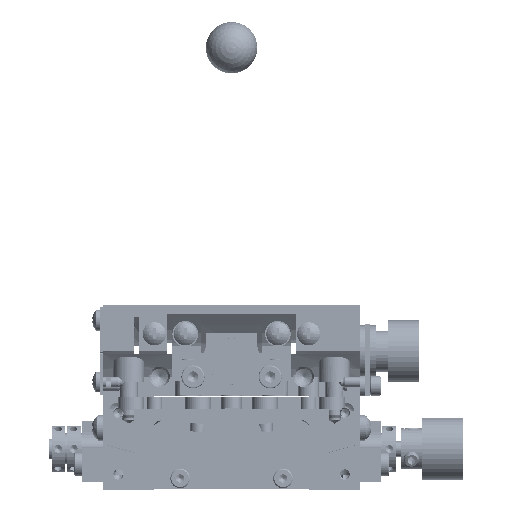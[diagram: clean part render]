
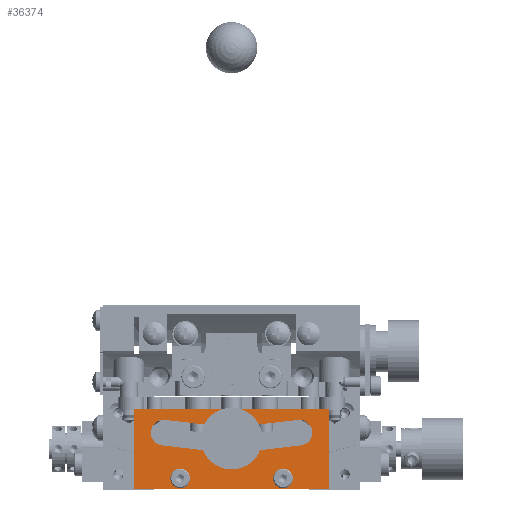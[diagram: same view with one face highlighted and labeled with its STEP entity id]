
A CAD part, front view. The second image highlights one B-rep face of the part: STEP entity #36374.
In plain terms, the highlighted planar face has unit normal (0, -1, 0) as drawn and (-1, 0, 0) by its records, which use the part's own axes.
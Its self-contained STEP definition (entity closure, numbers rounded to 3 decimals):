
#2894 = CIRCLE ( 'NONE', #2906, 2.5 ) ;
#2906 = AXIS2_PLACEMENT_3D ( 'NONE', #4996, #4999, #5001 ) ;
#2985 = CIRCLE ( 'NONE', #2991, 1.7 ) ;
#2991 = AXIS2_PLACEMENT_3D ( 'NONE', #5527, #5529, #5531 ) ;
#3133 = CIRCLE ( 'NONE', #3137, 1.7 ) ;
#3137 = AXIS2_PLACEMENT_3D ( 'NONE', #6257, #6259, #6261 ) ;
#4996 = CARTESIAN_POINT ( 'NONE',  ( -27., 13.197, 11.155 ) ) ;
#4999 = DIRECTION ( 'NONE',  ( 1., 0., 0. ) ) ;
#5001 = DIRECTION ( 'NONE',  ( 0., 1., 0. ) ) ;
#5527 = CARTESIAN_POINT ( 'NONE',  ( -27., 10., 2.25 ) ) ;
#5529 = DIRECTION ( 'NONE',  ( 1., 0., 0. ) ) ;
#5531 = DIRECTION ( 'NONE',  ( 0., -1., 0. ) ) ;
#6257 = CARTESIAN_POINT ( 'NONE',  ( -27., -10., 2.25 ) ) ;
#6259 = DIRECTION ( 'NONE',  ( 1., 0., 0. ) ) ;
#6261 = DIRECTION ( 'NONE',  ( 0., -1., 0. ) ) ;
#11357 = EDGE_LOOP ( 'NONE', ( #71550, #71548 ) ) ;
#11359 = EDGE_LOOP ( 'NONE', ( #71562, #71561, #71559, #71557, #71555 ) ) ;
#11371 = EDGE_LOOP ( 'NONE', ( #71570, #71568, #71566, #71564 ) ) ;
#11373 = EDGE_LOOP ( 'NONE', ( #71553, #71551 ) ) ;
#13781 = CIRCLE ( 'NONE', #13787, 1.7 ) ;
#13785 = CIRCLE ( 'NONE', #13791, 2.5 ) ;
#13787 = AXIS2_PLACEMENT_3D ( 'NONE', #19898, #19899, #19900 ) ;
#13789 = CIRCLE ( 'NONE', #13796, 78.5 ) ;
#13791 = AXIS2_PLACEMENT_3D ( 'NONE', #19901, #19902, #19903 ) ;
#13794 = CIRCLE ( 'NONE', #13800, 2.5 ) ;
#13796 = AXIS2_PLACEMENT_3D ( 'NONE', #19904, #19905, #19906 ) ;
#13798 = CIRCLE ( 'NONE', #13804, 73.5 ) ;
#13800 = AXIS2_PLACEMENT_3D ( 'NONE', #19909, #19910, #19911 ) ;
#13802 = VECTOR ( 'NONE', #19917, 1000. ) ;
#13804 = AXIS2_PLACEMENT_3D ( 'NONE', #19914, #19915, #19916 ) ;
#13807 = VECTOR ( 'NONE', #19920, 1000. ) ;
#13809 = VECTOR ( 'NONE', #19923, 1000. ) ;
#13811 = VECTOR ( 'NONE', #19926, 1000. ) ;
#13859 = CIRCLE ( 'NONE', #13865, 1.7 ) ;
#13865 = AXIS2_PLACEMENT_3D ( 'NONE', #19980, #19981, #19982 ) ;
#18399 = VERTEX_POINT ( 'NONE', #49182 ) ;
#18401 = VERTEX_POINT ( 'NONE', #49183 ) ;
#18409 = VERTEX_POINT ( 'NONE', #49191 ) ;
#18410 = VERTEX_POINT ( 'NONE', #49193 ) ;
#18414 = VERTEX_POINT ( 'NONE', #49196 ) ;
#18416 = VERTEX_POINT ( 'NONE', #49198 ) ;
#18420 = VERTEX_POINT ( 'NONE', #49202 ) ;
#19076 = CARTESIAN_POINT ( 'NONE',  ( -27., 11.7, 2.25 ) ) ;
#19083 = CARTESIAN_POINT ( 'NONE',  ( -27., 8.3, 2.25 ) ) ;
#19098 = CARTESIAN_POINT ( 'NONE',  ( -27., 12.763, 13.617 ) ) ;
#19103 = CARTESIAN_POINT ( 'NONE',  ( -27., 15.697, 11.155 ) ) ;
#19111 = CARTESIAN_POINT ( 'NONE',  ( -27., -8.3, 2.25 ) ) ;
#19113 = CARTESIAN_POINT ( 'NONE',  ( -27., -11.7, 2.25 ) ) ;
#19898 = CARTESIAN_POINT ( 'NONE',  ( -27., -10., 2.25 ) ) ;
#19899 = DIRECTION ( 'NONE',  ( 1., 0., 0. ) ) ;
#19900 = DIRECTION ( 'NONE',  ( 0., -1., 0. ) ) ;
#19901 = CARTESIAN_POINT ( 'NONE',  ( -27., 13.197, 11.155 ) ) ;
#19902 = DIRECTION ( 'NONE',  ( 1., 0., 0. ) ) ;
#19903 = DIRECTION ( 'NONE',  ( 0., 1., 0. ) ) ;
#19904 = CARTESIAN_POINT ( 'NONE',  ( -27., 0., 86. ) ) ;
#19905 = DIRECTION ( 'NONE',  ( 1., 0., 0. ) ) ;
#19906 = DIRECTION ( 'NONE',  ( 0., 1., 0. ) ) ;
#19907 = LINE ( 'NONE', #19908, #13802 ) ;
#19908 = CARTESIAN_POINT ( 'NONE',  ( -27., -19., 0.25 ) ) ;
#19909 = CARTESIAN_POINT ( 'NONE',  ( -27., -13.197, 11.155 ) ) ;
#19910 = DIRECTION ( 'NONE',  ( 1., 0., 0. ) ) ;
#19911 = DIRECTION ( 'NONE',  ( 0., 1., 0. ) ) ;
#19914 = CARTESIAN_POINT ( 'NONE',  ( -27., 0., 86. ) ) ;
#19915 = DIRECTION ( 'NONE',  ( -1., 0., 0. ) ) ;
#19916 = DIRECTION ( 'NONE',  ( 0., -1., 0. ) ) ;
#19917 = DIRECTION ( 'NONE',  ( 0., 1., 0. ) ) ;
#19918 = LINE ( 'NONE', #19919, #13807 ) ;
#19919 = CARTESIAN_POINT ( 'NONE',  ( -27., 19., 0.25 ) ) ;
#19920 = DIRECTION ( 'NONE',  ( 0., 0., 1. ) ) ;
#19921 = LINE ( 'NONE', #19922, #13809 ) ;
#19922 = CARTESIAN_POINT ( 'NONE',  ( -27., 19., 15.75 ) ) ;
#19923 = DIRECTION ( 'NONE',  ( 0., -1., 0. ) ) ;
#19924 = LINE ( 'NONE', #19925, #13811 ) ;
#19925 = CARTESIAN_POINT ( 'NONE',  ( -27., -19., 15.75 ) ) ;
#19926 = DIRECTION ( 'NONE',  ( 0., 0., -1. ) ) ;
#19980 = CARTESIAN_POINT ( 'NONE',  ( -27., 10., 2.25 ) ) ;
#19981 = DIRECTION ( 'NONE',  ( 1., 0., 0. ) ) ;
#19982 = DIRECTION ( 'NONE',  ( 0., -1., 0. ) ) ;
#36374 = ADVANCED_FACE ( 'NONE', ( #89017, #89019, #89021, #89013 ), #89022, .F. ) ;
#49182 = CARTESIAN_POINT ( 'NONE',  ( -27., 13.631, 8.693 ) ) ;
#49183 = CARTESIAN_POINT ( 'NONE',  ( -27., -13.631, 8.693 ) ) ;
#49191 = CARTESIAN_POINT ( 'NONE',  ( -27., 19., 0.25 ) ) ;
#49193 = CARTESIAN_POINT ( 'NONE',  ( -27., 19., 15.75 ) ) ;
#49196 = CARTESIAN_POINT ( 'NONE',  ( -27., -19., 15.75 ) ) ;
#49198 = CARTESIAN_POINT ( 'NONE',  ( -27., -12.763, 13.617 ) ) ;
#49202 = CARTESIAN_POINT ( 'NONE',  ( -27., -19., 0.25 ) ) ;
#51308 = AXIS2_PLACEMENT_3D ( 'NONE', #89018, #89023, #89024 ) ;
#71548 = ORIENTED_EDGE ( 'NONE', *, *, #100531, .T. ) ;
#71550 = ORIENTED_EDGE ( 'NONE', *, *, #113433, .T. ) ;
#71551 = ORIENTED_EDGE ( 'NONE', *, *, #100697, .T. ) ;
#71553 = ORIENTED_EDGE ( 'NONE', *, *, #113377, .T. ) ;
#71555 = ORIENTED_EDGE ( 'NONE', *, *, #100496, .T. ) ;
#71557 = ORIENTED_EDGE ( 'NONE', *, *, #113379, .T. ) ;
#71559 = ORIENTED_EDGE ( 'NONE', *, *, #113381, .T. ) ;
#71561 = ORIENTED_EDGE ( 'NONE', *, *, #113383, .T. ) ;
#71562 = ORIENTED_EDGE ( 'NONE', *, *, #113386, .T. ) ;
#71564 = ORIENTED_EDGE ( 'NONE', *, *, #113388, .F. ) ;
#71566 = ORIENTED_EDGE ( 'NONE', *, *, #113390, .F. ) ;
#71568 = ORIENTED_EDGE ( 'NONE', *, *, #113392, .F. ) ;
#71570 = ORIENTED_EDGE ( 'NONE', *, *, #113394, .F. ) ;
#89013 = FACE_BOUND ( 'NONE', #11357, .T. ) ;
#89017 = FACE_OUTER_BOUND ( 'NONE', #11371, .T. ) ;
#89018 = CARTESIAN_POINT ( 'NONE',  ( -27., 0., 0.25 ) ) ;
#89019 = FACE_BOUND ( 'NONE', #11359, .T. ) ;
#89021 = FACE_BOUND ( 'NONE', #11373, .T. ) ;
#89022 = PLANE ( 'NONE',  #51308 ) ;
#89023 = DIRECTION ( 'NONE',  ( 1., 0., 0. ) ) ;
#89024 = DIRECTION ( 'NONE',  ( 0., 1., 0. ) ) ;
#100496 = EDGE_CURVE ( 'NONE', #110468, #110463, #2894, .T. ) ;
#100531 = EDGE_CURVE ( 'NONE', #110448, #110441, #2985, .T. ) ;
#100697 = EDGE_CURVE ( 'NONE', #110478, #110476, #3133, .T. ) ;
#110441 = VERTEX_POINT ( 'NONE', #19076 ) ;
#110448 = VERTEX_POINT ( 'NONE', #19083 ) ;
#110463 = VERTEX_POINT ( 'NONE', #19098 ) ;
#110468 = VERTEX_POINT ( 'NONE', #19103 ) ;
#110476 = VERTEX_POINT ( 'NONE', #19111 ) ;
#110478 = VERTEX_POINT ( 'NONE', #19113 ) ;
#113377 = EDGE_CURVE ( 'NONE', #110476, #110478, #13781, .T. ) ;
#113379 = EDGE_CURVE ( 'NONE', #18399, #110468, #13785, .T. ) ;
#113381 = EDGE_CURVE ( 'NONE', #18401, #18399, #13789, .T. ) ;
#113383 = EDGE_CURVE ( 'NONE', #18416, #18401, #13794, .T. ) ;
#113386 = EDGE_CURVE ( 'NONE', #110463, #18416, #13798, .T. ) ;
#113388 = EDGE_CURVE ( 'NONE', #18420, #18409, #19907, .T. ) ;
#113390 = EDGE_CURVE ( 'NONE', #18409, #18410, #19918, .T. ) ;
#113392 = EDGE_CURVE ( 'NONE', #18410, #18414, #19921, .T. ) ;
#113394 = EDGE_CURVE ( 'NONE', #18414, #18420, #19924, .T. ) ;
#113433 = EDGE_CURVE ( 'NONE', #110441, #110448, #13859, .T. ) ;
